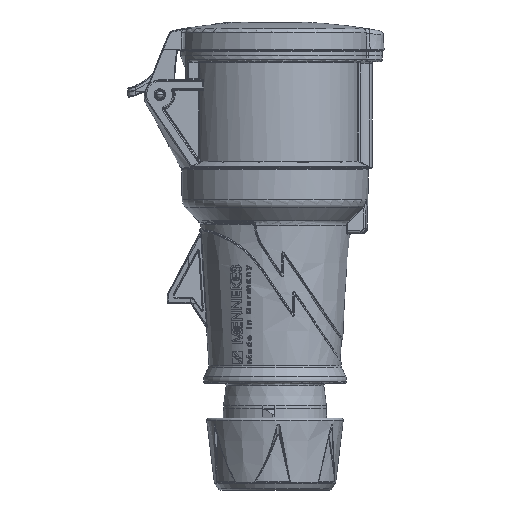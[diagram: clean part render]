
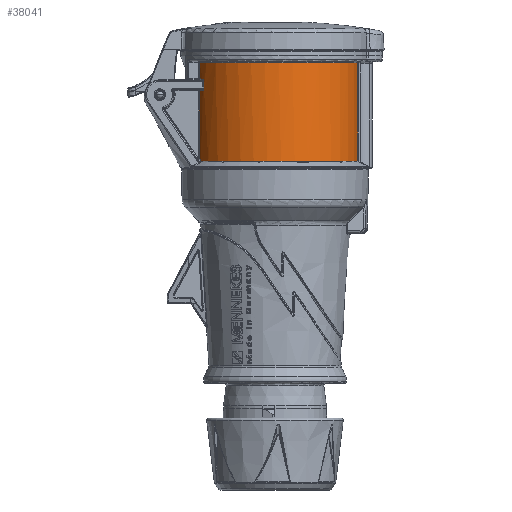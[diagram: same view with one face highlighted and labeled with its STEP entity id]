
A CAD part, left-side view. The second image highlights one B-rep face of the part: STEP entity #38041.
In plain terms, the highlighted cylindrical face has radius 35.05 mm (diameter 70.1 mm), a partial arc.
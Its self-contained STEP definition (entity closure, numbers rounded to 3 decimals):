
#917=CARTESIAN_POINT('',(0.,0.,-45.986));
#918=DIRECTION('',(0.,0.,1.));
#919=DIRECTION('',(-0.472,0.882,0.));
#920=AXIS2_PLACEMENT_3D('',#917,#918,#919);
#922=CARTESIAN_POINT('',(-16.513,30.916,-45.973));
#923=CARTESIAN_POINT('',(-16.515,30.915,-45.975));
#924=CARTESIAN_POINT('',(-16.518,30.914,-45.978));
#925=CARTESIAN_POINT('',(-16.524,30.911,-45.982));
#926=CARTESIAN_POINT('',(-16.527,30.909,-45.984));
#927=CARTESIAN_POINT('',(-16.529,30.908,-45.986));
#929=CARTESIAN_POINT('',(-16.513,30.916,-45.973));
#930=CARTESIAN_POINT('',(-16.385,30.985,-45.85));
#931=CARTESIAN_POINT('',(-16.128,31.12,-45.607));
#932=CARTESIAN_POINT('',(-15.741,31.318,-45.25));
#933=CARTESIAN_POINT('',(-15.482,31.446,-45.018));
#934=CARTESIAN_POINT('',(-15.353,31.509,-44.903));
#936=DIRECTION('',(0.,0.,1.));
#937=VECTOR('',#936,28.191);
#938=CARTESIAN_POINT('',(-15.353,31.509,-44.903));
#939=LINE('2019',#938,#937);
#940=CARTESIAN_POINT('',(-15.353,31.509,-16.712));
#941=CARTESIAN_POINT('',(-15.637,31.37,-16.687));
#942=CARTESIAN_POINT('',(-16.201,31.086,-16.637));
#943=CARTESIAN_POINT('',(-17.034,30.637,-16.563));
#944=CARTESIAN_POINT('',(-17.582,30.323,-16.515));
#945=CARTESIAN_POINT('',(-17.854,30.162,-16.491));
#947=CARTESIAN_POINT('',(-17.854,30.162,-16.491));
#948=CARTESIAN_POINT('',(-17.959,30.1,-16.481));
#949=CARTESIAN_POINT('',(-18.153,29.984,-16.43));
#950=CARTESIAN_POINT('',(-18.407,29.828,-16.264));
#951=CARTESIAN_POINT('',(-18.585,29.717,-16.043));
#952=CARTESIAN_POINT('',(-18.689,29.652,-15.794));
#953=CARTESIAN_POINT('',(-18.71,29.639,-15.629));
#954=CARTESIAN_POINT('',(-18.71,29.639,-15.544));
#956=DIRECTION('',(0.,0.,1.));
#957=VECTOR('',#956,2.762);
#958=CARTESIAN_POINT('',(-18.71,29.639,-15.544));
#959=LINE('2169',#958,#957);
#960=CARTESIAN_POINT('',(-18.71,29.639,-12.783));
#961=CARTESIAN_POINT('',(-18.71,29.639,-12.711));
#962=CARTESIAN_POINT('',(-18.694,29.648,-12.569));
#963=CARTESIAN_POINT('',(-18.619,29.696,-12.353));
#964=CARTESIAN_POINT('',(-18.488,29.777,-12.154));
#965=CARTESIAN_POINT('',(-18.302,29.892,-11.985));
#966=CARTESIAN_POINT('',(-18.066,30.036,-11.868));
#967=CARTESIAN_POINT('',(-17.895,30.138,-11.837));
#968=CARTESIAN_POINT('',(-17.805,30.191,-11.833));
#970=CARTESIAN_POINT('',(-17.805,30.191,-11.833));
#971=CARTESIAN_POINT('',(-17.541,30.346,-11.824));
#972=CARTESIAN_POINT('',(-17.01,30.65,-11.805));
#973=CARTESIAN_POINT('',(-16.202,31.085,-11.777));
#974=CARTESIAN_POINT('',(-15.655,31.361,-11.757));
#975=CARTESIAN_POINT('',(-15.381,31.495,-11.748));
#977=DIRECTION('',(0.,0.,1.));
#978=VECTOR('',#977,6.748);
#979=CARTESIAN_POINT('',(-15.381,31.495,-11.748));
#980=LINE('2021',#979,#978);
#981=CARTESIAN_POINT('',(0.,0.,-5.));
#982=DIRECTION('',(0.,0.,-1.));
#983=DIRECTION('',(-0.197,-0.98,0.));
#984=AXIS2_PLACEMENT_3D('',#981,#982,#983);
#986=CARTESIAN_POINT('',(-6.409,-34.459,
-5.5));
#987=CARTESIAN_POINT('',(-6.409,-34.459,
-5.447));
#988=CARTESIAN_POINT('',(-6.424,-34.456,
-5.345));
#989=CARTESIAN_POINT('',(-6.496,-34.443,
-5.201));
#990=CARTESIAN_POINT('',(-6.606,-34.422,
-5.089));
#991=CARTESIAN_POINT('',(-6.748,-34.394,
-5.016));
#992=CARTESIAN_POINT('',(-6.849,-34.374,
-5.));
#993=CARTESIAN_POINT('',(-6.902,-34.364,
-5.));
#995=DIRECTION('',(0.,0.,-1.));
#996=VECTOR('',#995,40.486);
#997=CARTESIAN_POINT('',(-6.409,-34.459,
-5.5));
#998=LINE('2597',#997,#996);
#32523=CARTESIAN_POINT('',(-16.529,30.908,
-45.986));
#32524=CARTESIAN_POINT('',(-6.409,-34.459,
-45.986));
#32525=VERTEX_POINT('',#32523);
#32526=VERTEX_POINT('',#32524);
#32550=CARTESIAN_POINT('',(-15.353,31.509,
-44.903));
#32551=CARTESIAN_POINT('',(-15.353,31.509,
-16.712));
#32552=VERTEX_POINT('',#32550);
#32553=VERTEX_POINT('',#32551);
#32558=CARTESIAN_POINT('',(-15.381,31.495,
-11.748));
#32559=CARTESIAN_POINT('',(-15.381,31.495,-5.));
#32560=VERTEX_POINT('',#32558);
#32561=VERTEX_POINT('',#32559);
#32715=VERTEX_POINT('',#970);
#32717=VERTEX_POINT('',#960);
#32718=CARTESIAN_POINT('',(-18.71,29.639,
-15.544));
#32719=VERTEX_POINT('',#32718);
#32720=VERTEX_POINT('',#947);
#32998=CARTESIAN_POINT('',(-16.513,30.916,
-45.973));
#32999=VERTEX_POINT('',#32998);
#33028=CARTESIAN_POINT('',(-6.409,-34.459,
-5.5));
#33029=VERTEX_POINT('',#33028);
#33030=VERTEX_POINT('',#993);
#38012=CARTESIAN_POINT('',(0.,0.,2.));
#38013=DIRECTION('',(0.,0.,-1.));
#38014=DIRECTION('',(-1.,0.,0.));
#38015=AXIS2_PLACEMENT_3D('',#38012,#38013,#38014);
#38016=CYLINDRICAL_SURFACE('78',#38015,35.05);
#38017=ORIENTED_EDGE('2000',*,*,#36639,.F.);
#38018=ORIENTED_EDGE('2518',*,*,#36738,.F.);
#38019=ORIENTED_EDGE('2530',*,*,#36784,.T.);
#38021=ORIENTED_EDGE('2019',*,*,#38020,.T.);
#38023=ORIENTED_EDGE('2174',*,*,#38022,.T.);
#38025=ORIENTED_EDGE('2171',*,*,#38024,.T.);
#38027=ORIENTED_EDGE('2169',*,*,#38026,.T.);
#38029=ORIENTED_EDGE('2167',*,*,#38028,.T.);
#38031=ORIENTED_EDGE('2165',*,*,#38030,.T.);
#38033=ORIENTED_EDGE('2021',*,*,#38032,.T.);
#38035=ORIENTED_EDGE('2575',*,*,#38034,.F.);
#38037=ORIENTED_EDGE('2569',*,*,#38036,.F.);
#38038=ORIENTED_EDGE('2597',*,*,#37992,.T.);
#38039=EDGE_LOOP('78',(#38017,#38018,#38019,#38021,#38023,#38025,#38027,#38029,
#38031,#38033,#38035,#38037,#38038));
#38040=FACE_OUTER_BOUND('78',#38039,.F.);
#921=CIRCLE('2000',#920,35.05);
#928=B_SPLINE_CURVE_WITH_KNOTS('2518',3,(#922,#923,#924,#925,#926,#927),
.UNSPECIFIED.,.F.,.F.,(4,1,1,4),(0.,0.333,0.667,1.),
.UNSPECIFIED.);
#935=B_SPLINE_CURVE_WITH_KNOTS('2530',3,(#929,#930,#931,#932,#933,#934),
.UNSPECIFIED.,.F.,.F.,(4,1,1,4),(0.,0.333,0.667,1.),
.UNSPECIFIED.);
#946=B_SPLINE_CURVE_WITH_KNOTS('2174',3,(#940,#941,#942,#943,#944,#945),
.UNSPECIFIED.,.F.,.F.,(4,1,1,4),(0.,0.333,0.667,1.),
.UNSPECIFIED.);
#955=B_SPLINE_CURVE_WITH_KNOTS('2171',3,(#947,#948,#949,#950,#951,#952,#953,
#954),.UNSPECIFIED.,.F.,.F.,(4,1,1,1,1,4),(0.,0.2,0.4,0.6,0.8,1.),
.UNSPECIFIED.);
#969=B_SPLINE_CURVE_WITH_KNOTS('2167',3,(#960,#961,#962,#963,#964,#965,#966,
#967,#968),.UNSPECIFIED.,.F.,.F.,(4,1,1,1,1,1,4),(0.,0.167,
0.333,0.5,0.667,0.833,1.),
.UNSPECIFIED.);
#976=B_SPLINE_CURVE_WITH_KNOTS('2165',3,(#970,#971,#972,#973,#974,#975),
.UNSPECIFIED.,.F.,.F.,(4,1,1,4),(0.,0.333,0.667,1.),
.UNSPECIFIED.);
#985=CIRCLE('2575',#984,35.05);
#994=B_SPLINE_CURVE_WITH_KNOTS('2569',3,(#986,#987,#988,#989,#990,#991,#992,
#993),.UNSPECIFIED.,.F.,.F.,(4,1,1,1,1,4),(0.,0.2,0.4,0.6,0.8,1.),
.UNSPECIFIED.);
#36639=EDGE_CURVE('2000',#32525,#32526,#921,.T.);
#36738=EDGE_CURVE('2518',#32999,#32525,#928,.T.);
#36784=EDGE_CURVE('2530',#32999,#32552,#935,.T.);
#37992=EDGE_CURVE('2597',#33029,#32526,#998,.T.);
#38020=EDGE_CURVE('2019',#32552,#32553,#939,.T.);
#38022=EDGE_CURVE('2174',#32553,#32720,#946,.T.);
#38024=EDGE_CURVE('2171',#32720,#32719,#955,.T.);
#38026=EDGE_CURVE('2169',#32719,#32717,#959,.T.);
#38028=EDGE_CURVE('2167',#32717,#32715,#969,.T.);
#38030=EDGE_CURVE('2165',#32715,#32560,#976,.T.);
#38032=EDGE_CURVE('2021',#32560,#32561,#980,.T.);
#38034=EDGE_CURVE('2575',#33030,#32561,#985,.T.);
#38036=EDGE_CURVE('2569',#33029,#33030,#994,.T.);
#38041=ADVANCED_FACE('78',(#38040),#38016,.T.);
